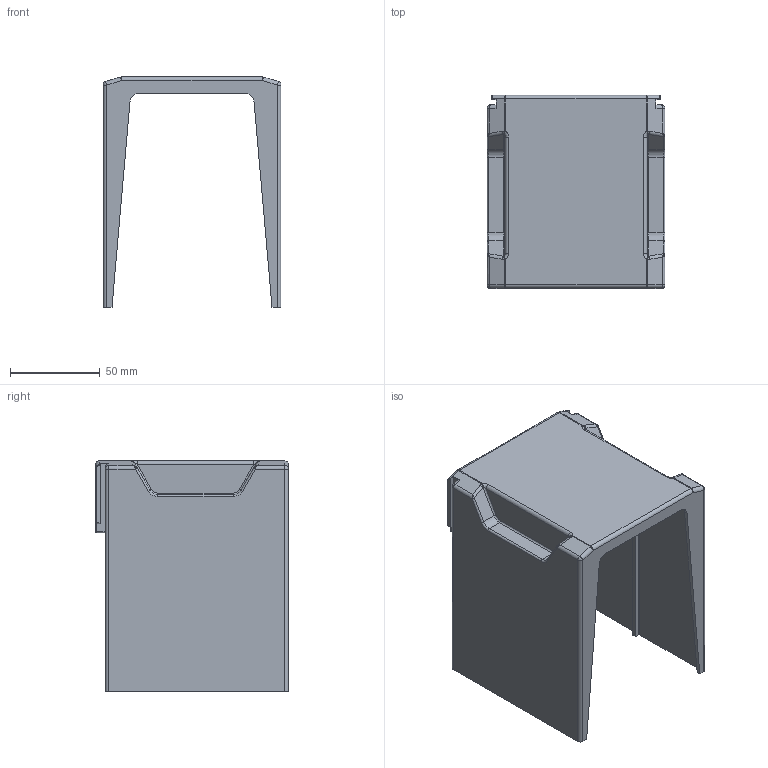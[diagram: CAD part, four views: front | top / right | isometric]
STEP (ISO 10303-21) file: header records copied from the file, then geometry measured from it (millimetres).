
FILE_DESCRIPTION((''),'2;1');
FILE_NAME('8TZD_311_6073','2024-10-22T09:10:34',('liuhui'),(''),'CREO PARAMETRIC BY PTC INC, 2020354','CREO PARAMETRIC BY PTC INC, 2020354','');
FILE_SCHEMA(('CONFIG_CONTROL_DESIGN'));
Length unit declared in the file: millimetre
Products named in the file (1): 8TZD_311_6073
Bounding box: 99 x 107.3 x 128 mm (x, y, z)
Volume: 84968.9 mm3; surface area: 86232.6 mm2
Topology: 1 solids, 1 shells, 296 faces, 694 edges, 396 vertices
Faces by surface type: cylinder 134, plane 80, sphere 40, bspline 26, torus 16
Entity records: 9424 total; most frequent: CARTESIAN_POINT 2791, DIRECTION 1390, ORIENTED_EDGE 1380, EDGE_CURVE 690, AXIS2_PLACEMENT_3D 515, VERTEX_POINT 396, VECTOR 360, LINE 360
